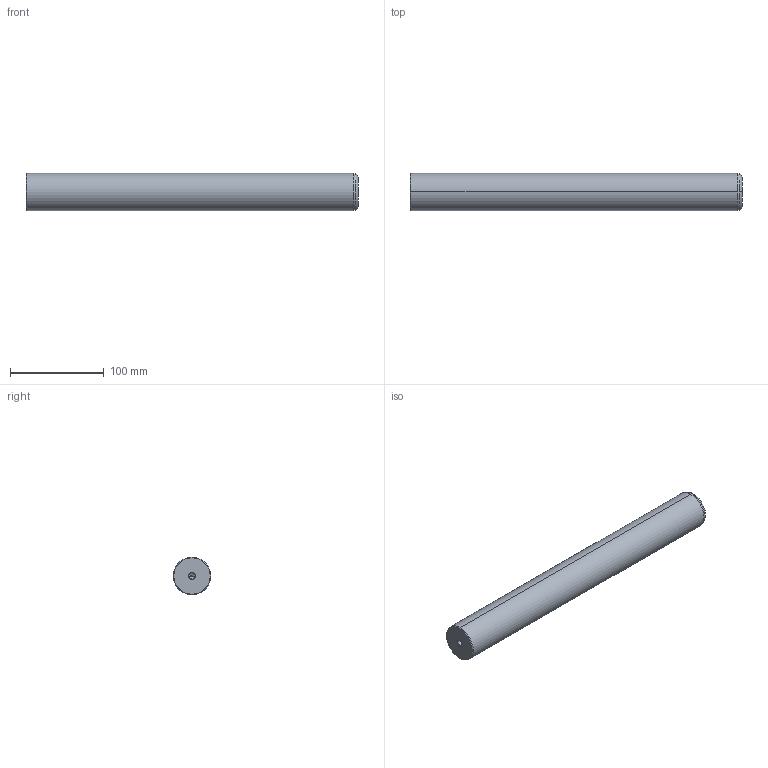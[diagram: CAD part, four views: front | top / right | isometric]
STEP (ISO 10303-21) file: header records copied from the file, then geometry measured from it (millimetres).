
FILE_DESCRIPTION(('CATIA V5 STEP Exchange'),'2;1');
FILE_NAME('C:\Users\Utente\Desktop\IO LAVORO\3D X SITO CF\X SITO\720\720-40x355.stp','2020-12-30T21:56:17+00:00',('none'),('none'),'CATIA Version 5 Release 20 GA (IN-10)','CATIA V5 STEP AP203','none');
FILE_SCHEMA(('CONFIG_CONTROL_DESIGN'));
Length unit declared in the file: millimetre
Products named in the file (1): 720-40x355
Bounding box: 355 x 40 x 40 mm (x, y, z)
Volume: 443732.4 mm3; surface area: 47794.8 mm2
Topology: 1 solids, 1 shells, 22 faces, 62 edges, 40 vertices
Faces by surface type: cone 12, cylinder 6, plane 2, torus 2
Entity records: 806 total; most frequent: CARTESIAN_POINT 229, ORIENTED_EDGE 116, DIRECTION 93, EDGE_CURVE 58, AXIS2_PLACEMENT_3D 54, VERTEX_POINT 40, CIRCLE 31, EDGE_LOOP 24
